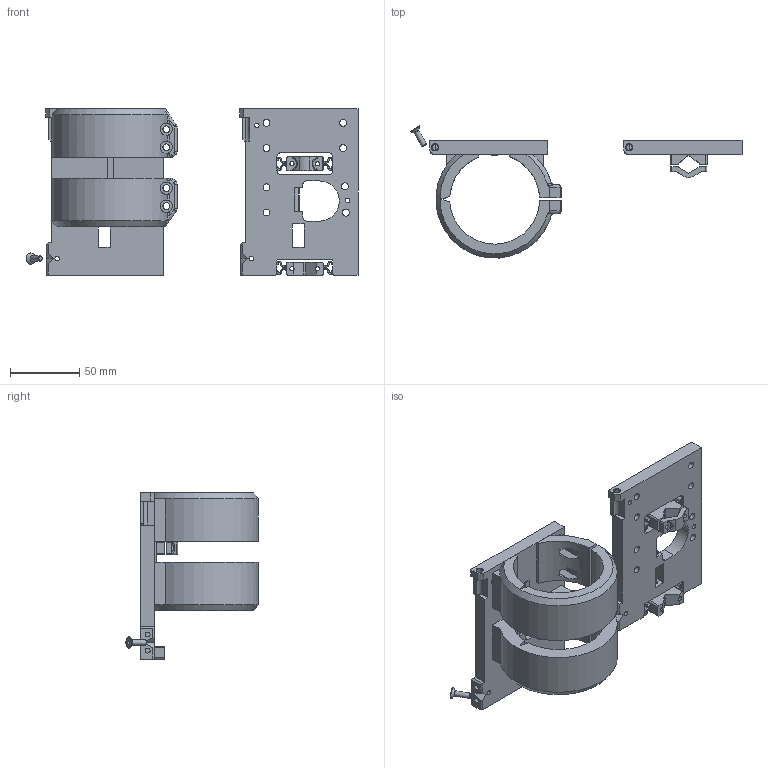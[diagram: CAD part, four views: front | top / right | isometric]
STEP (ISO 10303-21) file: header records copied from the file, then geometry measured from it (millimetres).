
FILE_DESCRIPTION(/* description */ (''),/* implementation_level */ '2;1');
FILE_NAME(/* name */ '/Users/alfonsoparrarubio/Downloads/Makita Hotplate v4.step',/* time_stamp */ '2022-01-29T18:41:10-05:00',/* author */ (''),/* organization */ (''),/* preprocessor_version */ 'ST-DEVELOPER v18.1',/* originating_system */ 'Autodesk Translation Framework v10.13.0.1454',/* authorisation */ '');
FILE_SCHEMA (('AUTOMOTIVE_DESIGN { 1 0 10303 214 3 1 1 }'));
Length unit declared in the file: millimetre
Products named in the file (1): Makita Hotplate
Bounding box: 239.49 x 95.29 x 120 mm (x, y, z)
Volume: 299014.1 mm3; surface area: 101686.8 mm2
Topology: 8 solids, 8 shells, 557 faces, 1547 edges, 1010 vertices
Faces by surface type: plane 310, cylinder 187, cone 30, bspline 30
Full cylindrical faces by diameter (mm): 3 x6, 3.3 x6, 3.6 x4, 3.9 x1, 4.25 x7, 5 x32, 8 x1, 8.9 x4
Entity records: 19288 total; most frequent: CARTESIAN_POINT 4596, ORIENTED_EDGE 3094, DIRECTION 2978, EDGE_CURVE 1547, VERTEX_POINT 1010, AXIS2_PLACEMENT_3D 996, LINE 986, VECTOR 986
